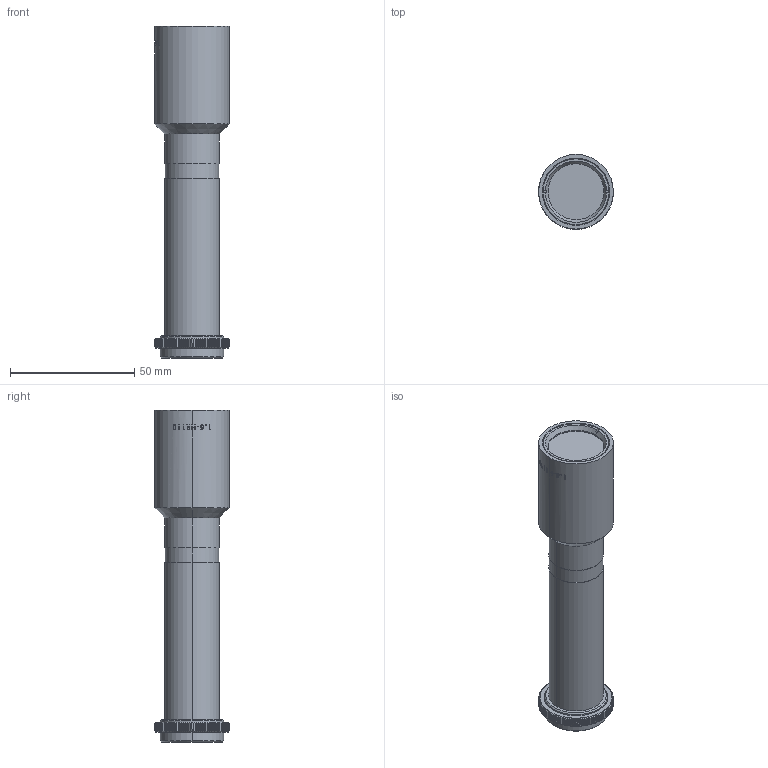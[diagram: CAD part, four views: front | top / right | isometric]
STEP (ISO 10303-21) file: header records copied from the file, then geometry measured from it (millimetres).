
FILE_DESCRIPTION (( 'STEP AP203' ), '1' );
FILE_NAME ('MML1.5-HR110_A03450A0100101A-001.STEP', '2014-07-15T07:05:30', ( '' ), ( '' ), 'SwSTEP 2.0', 'SolidWorks 2011', '' );
FILE_SCHEMA (( 'CONFIG_CONTROL_DESIGN' ));
Length unit declared in the file: inch
Products named in the file (1): MML1.5-HR110_A03450A0100101A-001
Bounding box: 30 x 30 x 133.4 mm (x, y, z)
Volume: 48967.4 mm3; surface area: 16098.3 mm2
Topology: 1 solids, 4 shells, 427 faces, 1175 edges, 774 vertices
Faces by surface type: plane 315, cylinder 47, bspline 33, cone 32
Entity records: 17464 total; most frequent: CARTESIAN_POINT 7654, ORIENTED_EDGE 2350, DIRECTION 1527, EDGE_CURVE 1175, VERTEX_POINT 774, B_SPLINE_CURVE_WITH_KNOTS 606, AXIS2_PLACEMENT_3D 563, EDGE_LOOP 451
